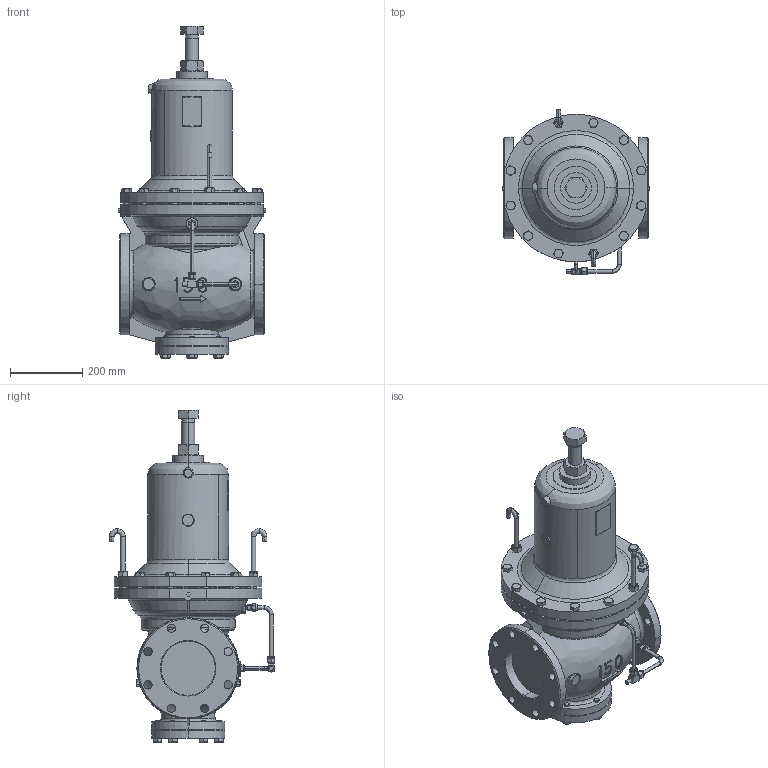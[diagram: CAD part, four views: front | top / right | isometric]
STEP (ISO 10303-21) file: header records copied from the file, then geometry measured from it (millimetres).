
FILE_DESCRIPTION( (''), '2;1');
FILE_NAME ('PC1027.11244.GD-200 150A_24758.stp','2025-07-25T11:49:43',(''),(''),'spGate 19.8.4 (****-****-****-****)','','');
FILE_SCHEMA (('AUTOMOTIVE_DESIGN'));
Length unit declared in the file: millimetre
Products named in the file (30): Assembly; PC1056-prt6; PC1056-prt7; PC1056-prt8; PC1056-prt9; PC1056-prt10; PC1056-prt12; 6B本体; 5B保護筒 - コピー; 5Ｂカバー - コピー; CP_''''_JIS B 1181 六角ナット 2種 上; 調節ねじ; フックボルト_M7; フックボルト_M9; フックボルト_M10; フックボルト_M11; フックボルト_M12; 全ネジ六角ボルト; GD-200 150A_M2; GD-200 150A_M3; SS-10M0-3; B-600-1-4RT - コピー; 検出管A65_M5; 検出管B65_M5
Assembly tree (50 placements, depth 2):
  Assembly
    PC1056-prt6
    PC1056-prt7
    PC1056-prt8
    PC1056-prt9
    PC1056-prt10
    PC1056-prt12
    PC1056-prt10
    PC1056-prt9
    PC1056-prt7
    PC1056-prt8
    PC1056-prt6
    PC1056-prt12
    6B本体
    5B保護筒 - コピー
    5Ｂカバー - コピー
    CP_''''_JIS B 1181 六角ナット 2種 上
    調節ねじ
    フックボルト_M7  x2
    フックボルト_M9  x2
    フックボルト_M10  x2
    フックボルト_M11  x2
    フックボルト_M12  x2
    全ネジ六角ボルト  x10
    GD-200 150A_M2  x2
    GD-200 150A_M3  x6
    SS-10M0-3
    B-600-1-4RT - コピー  x2
    検出管A65_M5
    検出管B65_M5
Bounding box: 409 x 457.79 x 918.5 mm (x, y, z)
Volume: 47601518.8 mm3; surface area: 1694436 mm2
Topology: 38 solids, 38 shells, 1124 faces, 2597 edges, 1622 vertices
Faces by surface type: plane 404, bspline 374, cylinder 346
Entity records: 44289 total; most frequent: CARTESIAN_POINT 14730, ORIENTED_EDGE 3370, DIRECTION 3008, COLOUR_RGB 2406, PRESENTATION_STYLE_ASSIGNMENT 2406, STYLED_ITEM 2406, DRAUGHTING_PRE_DEFINED_CURVE_FONT 1697, CURVE_STYLE 1697
